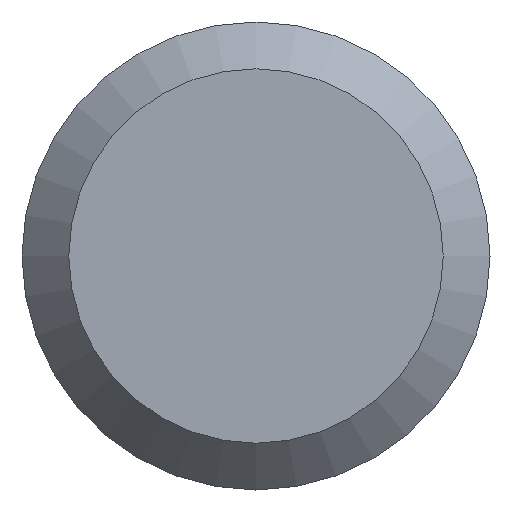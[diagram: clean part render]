
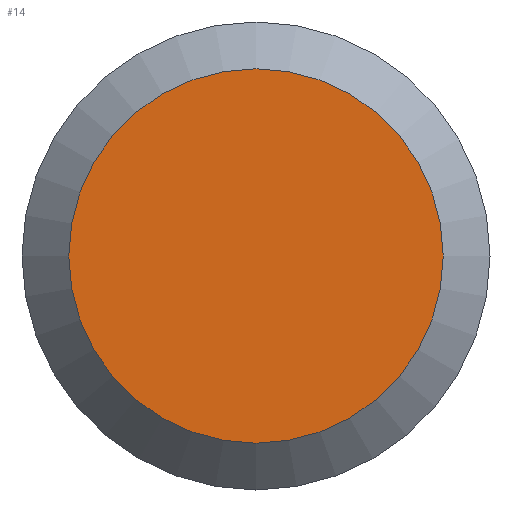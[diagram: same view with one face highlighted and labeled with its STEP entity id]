
A CAD part, left-side view. The second image highlights one B-rep face of the part: STEP entity #14.
In plain terms, the highlighted planar face has unit normal (-1, 0, 0).
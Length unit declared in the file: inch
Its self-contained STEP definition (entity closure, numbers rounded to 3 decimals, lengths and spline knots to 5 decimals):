
#14 = ADVANCED_FACE ( 'NONE', ( #95 ), #221, .F. ) ;
#27 = EDGE_LOOP ( 'NONE', ( #133 ) ) ;
#52 = DIRECTION ( 'NONE',  ( -1., 0., 0. ) ) ;
#53 = CARTESIAN_POINT ( 'NONE',  ( 0., 0., -0.0628 ) ) ;
#66 = CIRCLE ( 'NONE', #76, 0.0628 ) ;
#74 = DIRECTION ( 'NONE',  ( 0., 0., -1. ) ) ;
#76 = AXIS2_PLACEMENT_3D ( 'NONE', #231, #52, #113 ) ;
#82 = VERTEX_POINT ( 'NONE', #53 ) ;
#93 = DIRECTION ( 'NONE',  ( 1., 0., 0. ) ) ;
#95 = FACE_OUTER_BOUND ( 'NONE', #27, .T. ) ;
#113 = DIRECTION ( 'NONE',  ( 0., 0., -1. ) ) ;
#133 = ORIENTED_EDGE ( 'NONE', *, *, #160, .T. ) ;
#147 = AXIS2_PLACEMENT_3D ( 'NONE', #171, #93, #74 ) ;
#160 = EDGE_CURVE ( 'NONE', #82, #82, #66, .T. ) ;
#171 = CARTESIAN_POINT ( 'NONE',  ( 0., 0.0785, 0. ) ) ;
#221 = PLANE ( 'NONE',  #147 ) ;
#231 = CARTESIAN_POINT ( 'NONE',  ( 0., 0., 0. ) ) ;
